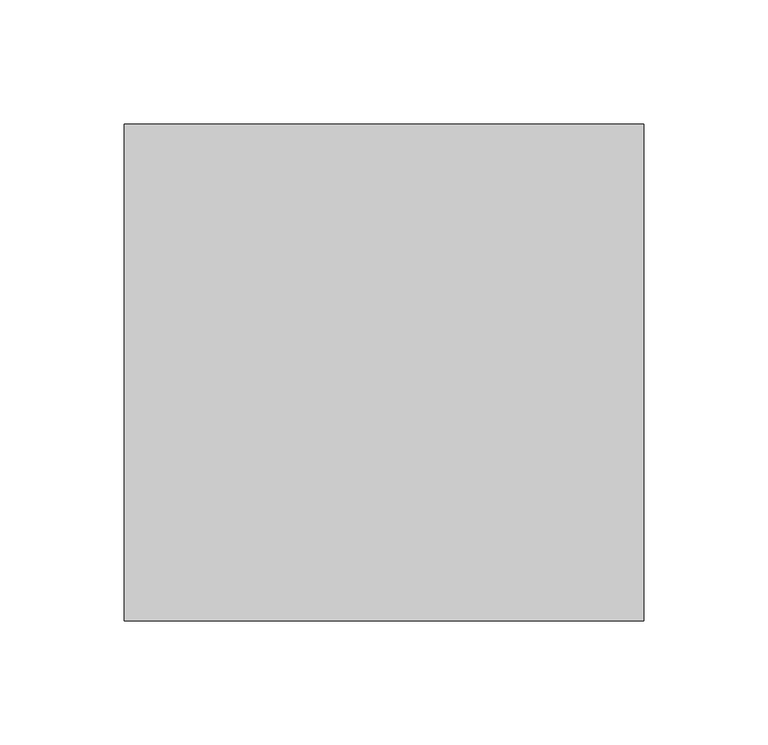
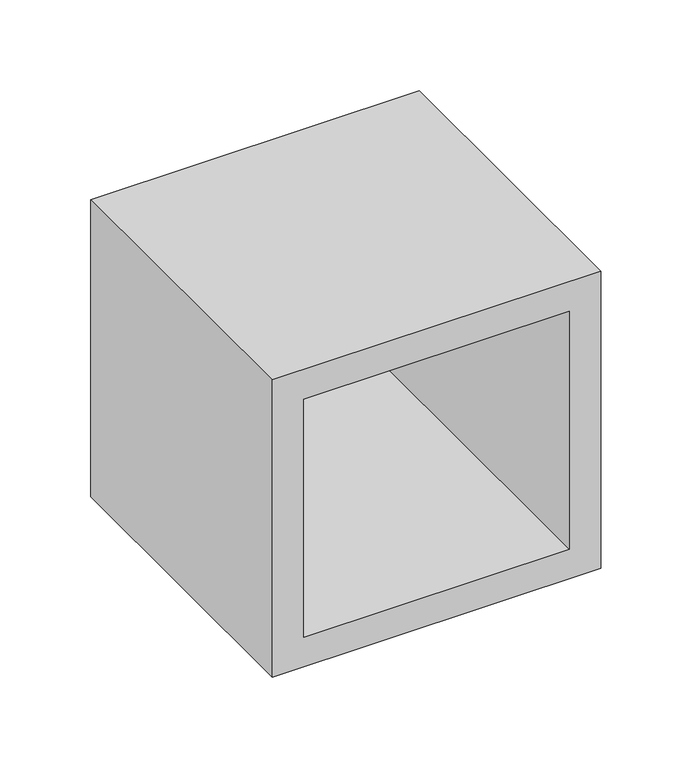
"""IFC4 building model written with IfcOpenShell, lengths in millimetres: plate geometry, pnl - ELEMENTO VAZADO QUADRICULADO : e = 20."""

from ifc_helpers import new_model, si_unit, frame, origin, place, context, project, spatial, polyline, outline, extrude, source, transform, mapped, element, save


def plate_8b2e527d(model_context):
    return source(origin(), model_context, "Body", "SweptSolid", [
        extrude(outline(polyline([(200.0, -104.5454545), (0.0, -104.5454545), (0.0, 104.5454545), (200.0, 104.5454545), (200.0, -104.5454545)]), holes=[polyline([(180.0, -84.5454545), (180.0, 84.5454545), (20.0, 84.5454545), (20.0, -84.5454545), (180.0, -84.5454545)])]), frame((0.0, -100.0, 0.0), z_axis=(0.0, 1.0, 0.0), x_axis=(0.0, 0.0, 1.0)), (0.0, 0.0, 1.0), 200.0),
    ])


if __name__ == "__main__":
    model = new_model("IFC4")
    model_context = context("Model", 3, world=origin())
    ifc_project = project(units=[si_unit("LENGTHUNIT", "METRE", prefix="MILLI")], contexts=[model_context])
    site = spatial("IfcSite", under=ifc_project)
    building = spatial("IfcBuilding", under=site)
    placement = place(None, origin())
    plate_shape = plate_8b2e527d(model_context)
    element("IfcPlate", 1, ObjectType="pnl - ELEMENTO VAZADO QUADRICULADO : e = 20", at=placement, inside=building, context=model_context, shape_type="MappedRepresentation", body=[
        mapped(plate_shape, transform((0.0, 0.0, 0.0), x_axis=(1.0, 0.0, 0.0), y_axis=(0.0, 1.0, 0.0), z_axis=(0.0, 0.0, 1.0))),
    ])
    save(model, "model.ifc")
